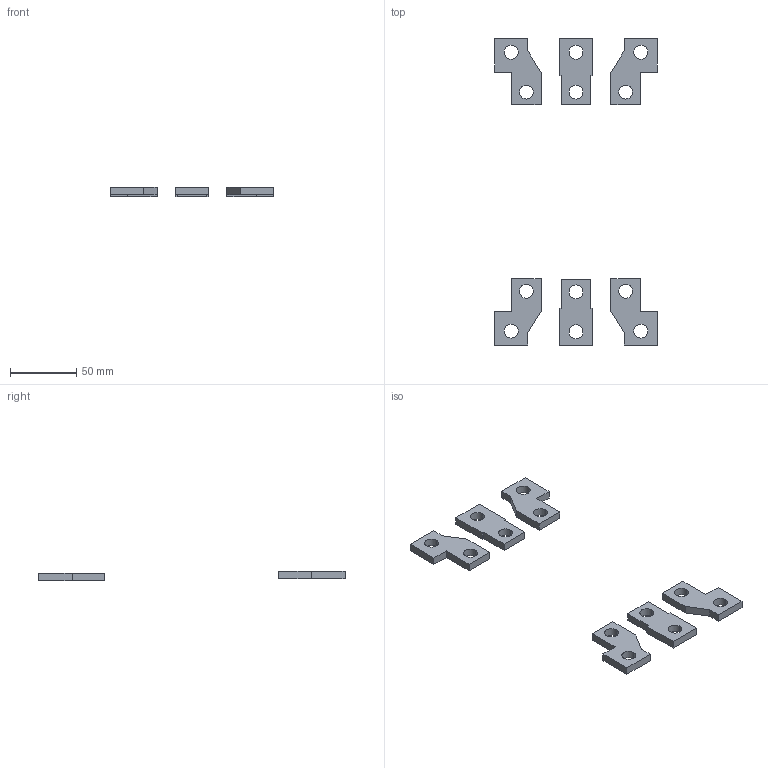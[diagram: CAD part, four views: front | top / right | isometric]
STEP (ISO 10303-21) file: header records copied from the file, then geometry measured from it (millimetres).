
FILE_DESCRIPTION (( 'STEP AP214' ), '1' );
FILE_NAME ('Êîìïëåêò âûâîäîâ ðàñøèðèòåëüíûõ ÂÀ04-36ÂÀ51-35ÂÀ57-35-ÓÕË3 320 À, 400 À.STEP', '2023-07-24T12:41:24', ( '' ), ( '' ), 'SwSTEP 2.0', 'SolidWorks 2018', '' );
FILE_SCHEMA (( 'AUTOMOTIVE_DESIGN' ));
Length unit declared in the file: millimetre
Products named in the file (1): Êîìïëåêò âûâîäîâ ðàñøèðèòåëüíûõ ÂÀ04-36ÂÀ51-35ÂÀ57-35-ÓÕË3 320 À, 400 À
Bounding box: 122.68 x 231.55 x 7.5 mm (x, y, z)
Volume: 38129.5 mm3; surface area: 20793.7 mm2
Topology: 6 solids, 6 shells, 84 faces, 216 edges, 144 vertices
Faces by surface type: plane 60, cylinder 24
Entity records: 3599 total; most frequent: CARTESIAN_POINT 445, DIRECTION 434, ORIENTED_EDGE 432, EDGE_CURVE 216, VECTOR 168, LINE 168, VERTEX_POINT 144, AXIS2_PLACEMENT_3D 133
